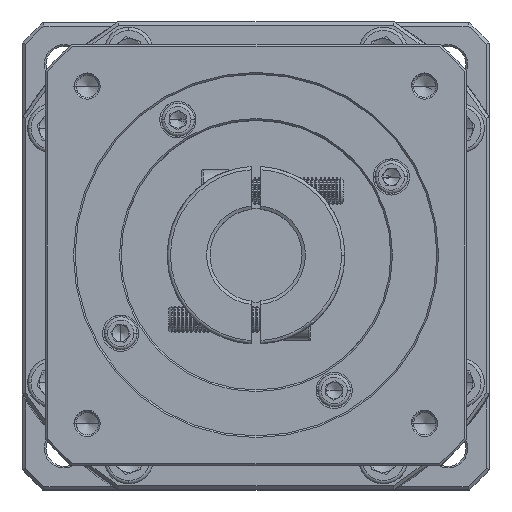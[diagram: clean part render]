
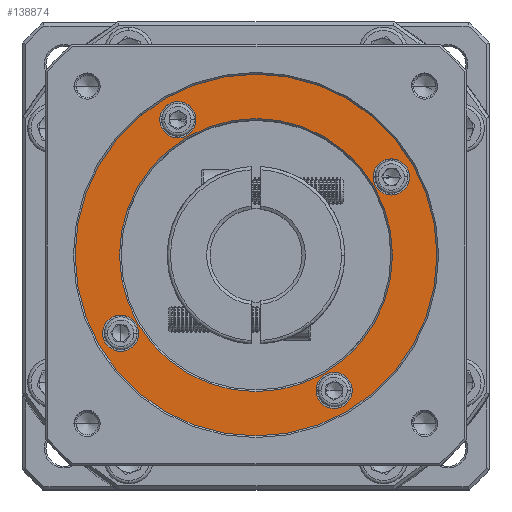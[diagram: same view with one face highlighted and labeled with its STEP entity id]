
A CAD part, top view. The second image highlights one B-rep face of the part: STEP entity #138874.
In plain terms, the highlighted planar face has unit normal (0, 0, 1).
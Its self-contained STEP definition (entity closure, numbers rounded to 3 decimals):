
#2716 = AXIS2_PLACEMENT_3D ( 'NONE', #20272, #119832, #130110 ) ;
#2863 = FACE_BOUND ( 'NONE', #81244, .T. ) ;
#3040 = ORIENTED_EDGE ( 'NONE', *, *, #79056, .T. ) ;
#4577 = CARTESIAN_POINT ( 'NONE',  ( -157.723, 72.385, -4.159 ) ) ;
#5025 = EDGE_CURVE ( 'NONE', #56036, #143612, #7758, .T. ) ;
#6142 = VERTEX_POINT ( 'NONE', #78401 ) ;
#7131 = DIRECTION ( 'NONE',  ( 1., 0., 0. ) ) ;
#7213 = EDGE_LOOP ( 'NONE', ( #120786, #34948 ) ) ;
#7758 = CIRCLE ( 'NONE', #142161, 5.5 ) ;
#8131 = DIRECTION ( 'NONE',  ( 1., 0., 0. ) ) ;
#9355 = AXIS2_PLACEMENT_3D ( 'NONE', #137518, #91048, #82189 ) ;
#11688 = FACE_BOUND ( 'NONE', #77683, .T. ) ;
#14036 = EDGE_CURVE ( 'NONE', #96364, #37630, #68209, .T. ) ;
#14424 = DIRECTION ( 'NONE',  ( 0., 0., -1. ) ) ;
#18352 = CIRCLE ( 'NONE', #44143, 55. ) ;
#18641 = VERTEX_POINT ( 'NONE', #57439 ) ;
#19185 = DIRECTION ( 'NONE',  ( 0., 0., -1. ) ) ;
#19555 = CIRCLE ( 'NONE', #80028, 5.5 ) ;
#19615 = PLANE ( 'NONE',  #118934 ) ;
#19818 = DIRECTION ( 'NONE',  ( 0., 0., -1. ) ) ;
#20272 = CARTESIAN_POINT ( 'NONE',  ( -111.087, 96.135, -4.159 ) ) ;
#22026 = CARTESIAN_POINT ( 'NONE',  ( -64.451, 119.885, -4.159 ) ) ;
#22436 = CARTESIAN_POINT ( 'NONE',  ( -87.337, 54.998, -4.159 ) ) ;
#23931 = FACE_BOUND ( 'NONE', #37126, .T. ) ;
#28263 = AXIS2_PLACEMENT_3D ( 'NONE', #127658, #14424, #105562 ) ;
#28775 = VERTEX_POINT ( 'NONE', #22026 ) ;
#31018 = FACE_BOUND ( 'NONE', #33881, .T. ) ;
#31186 = AXIS2_PLACEMENT_3D ( 'NONE', #131586, #76200, #8131 ) ;
#33618 = EDGE_LOOP ( 'NONE', ( #64453, #55061 ) ) ;
#33881 = EDGE_LOOP ( 'NONE', ( #108255, #48589 ) ) ;
#34948 = ORIENTED_EDGE ( 'NONE', *, *, #99044, .T. ) ;
#37126 = EDGE_LOOP ( 'NONE', ( #128819, #102769 ) ) ;
#37630 = VERTEX_POINT ( 'NONE', #110448 ) ;
#37638 = CARTESIAN_POINT ( 'NONE',  ( -87.337, 54.998, -4.159 ) ) ;
#38025 = FACE_BOUND ( 'NONE', #33618, .T. ) ;
#44143 = AXIS2_PLACEMENT_3D ( 'NONE', #102668, #69868, #124804 ) ;
#48589 = ORIENTED_EDGE ( 'NONE', *, *, #14036, .T. ) ;
#52516 = DIRECTION ( 'NONE',  ( 1., 0., 0. ) ) ;
#54398 = CIRCLE ( 'NONE', #131585, 5.5 ) ;
#55061 = ORIENTED_EDGE ( 'NONE', *, *, #5025, .T. ) ;
#56019 = DIRECTION ( 'NONE',  ( 1., 0., 0. ) ) ;
#56036 = VERTEX_POINT ( 'NONE', #4577 ) ;
#57439 = CARTESIAN_POINT ( 'NONE',  ( -75.451, 119.885, -4.159 ) ) ;
#61163 = DIRECTION ( 'NONE',  ( 0., 0., -1. ) ) ;
#61859 = CIRCLE ( 'NONE', #85126, 5.5 ) ;
#62502 = CARTESIAN_POINT ( 'NONE',  ( -56.087, 96.135, -4.159 ) ) ;
#62909 = VERTEX_POINT ( 'NONE', #132411 ) ;
#63611 = CIRCLE ( 'NONE', #99352, 5.5 ) ;
#64439 = CARTESIAN_POINT ( 'NONE',  ( -152.587, 96.135, -4.159 ) ) ;
#64453 = ORIENTED_EDGE ( 'NONE', *, *, #133388, .T. ) ;
#66019 = FACE_OUTER_BOUND ( 'NONE', #7213, .T. ) ;
#68209 = CIRCLE ( 'NONE', #31186, 5.5 ) ;
#69868 = DIRECTION ( 'NONE',  ( 0., 0., 1. ) ) ;
#74760 = EDGE_CURVE ( 'NONE', #6142, #62909, #19555, .T. ) ;
#76200 = DIRECTION ( 'NONE',  ( 0., 0., -1. ) ) ;
#76386 = ORIENTED_EDGE ( 'NONE', *, *, #129740, .T. ) ;
#77683 = EDGE_LOOP ( 'NONE', ( #3040, #140927 ) ) ;
#78347 = DIRECTION ( 'NONE',  ( 0., 0., -1. ) ) ;
#78401 = CARTESIAN_POINT ( 'NONE',  ( -81.837, 54.998, -4.159 ) ) ;
#79056 = EDGE_CURVE ( 'NONE', #117152, #131613, #114595, .T. ) ;
#80028 = AXIS2_PLACEMENT_3D ( 'NONE', #22436, #78347, #122986 ) ;
#81244 = EDGE_LOOP ( 'NONE', ( #76386, #94139 ) ) ;
#81303 = AXIS2_PLACEMENT_3D ( 'NONE', #145300, #143819, #56019 ) ;
#82118 = CARTESIAN_POINT ( 'NONE',  ( -152.223, 72.385, -4.159 ) ) ;
#82189 = DIRECTION ( 'NONE',  ( 1., 0., 0. ) ) ;
#82257 = CARTESIAN_POINT ( 'NONE',  ( -140.337, 137.271, -4.159 ) ) ;
#85126 = AXIS2_PLACEMENT_3D ( 'NONE', #130126, #19818, #7131 ) ;
#85175 = EDGE_CURVE ( 'NONE', #131613, #117152, #110008, .T. ) ;
#90210 = CARTESIAN_POINT ( 'NONE',  ( -152.223, 72.385, -4.159 ) ) ;
#91048 = DIRECTION ( 'NONE',  ( 0., 0., -1. ) ) ;
#93819 = DIRECTION ( 'NONE',  ( 0., 0., -1. ) ) ;
#94139 = ORIENTED_EDGE ( 'NONE', *, *, #94675, .T. ) ;
#94675 = EDGE_CURVE ( 'NONE', #18641, #28775, #61859, .T. ) ;
#96364 = VERTEX_POINT ( 'NONE', #82257 ) ;
#98219 = VERTEX_POINT ( 'NONE', #62502 ) ;
#99044 = EDGE_CURVE ( 'NONE', #123712, #98219, #131449, .T. ) ;
#99352 = AXIS2_PLACEMENT_3D ( 'NONE', #82118, #93819, #104577 ) ;
#102377 = DIRECTION ( 'NONE',  ( 1., 0., 0. ) ) ;
#102668 = CARTESIAN_POINT ( 'NONE',  ( -111.087, 96.135, -4.159 ) ) ;
#102769 = ORIENTED_EDGE ( 'NONE', *, *, #127023, .T. ) ;
#104577 = DIRECTION ( 'NONE',  ( 1., 0., 0. ) ) ;
#105562 = DIRECTION ( 'NONE',  ( 1., 0., 0. ) ) ;
#107890 = DIRECTION ( 'NONE',  ( 0., 0., 1. ) ) ;
#108255 = ORIENTED_EDGE ( 'NONE', *, *, #141735, .T. ) ;
#108386 = CARTESIAN_POINT ( 'NONE',  ( -111.087, 96.135, -4.159 ) ) ;
#108907 = DIRECTION ( 'NONE',  ( 1., 0., 0. ) ) ;
#110008 = CIRCLE ( 'NONE', #2716, 41.5 ) ;
#110448 = CARTESIAN_POINT ( 'NONE',  ( -129.337, 137.271, -4.159 ) ) ;
#112713 = CARTESIAN_POINT ( 'NONE',  ( -146.723, 72.385, -4.159 ) ) ;
#113706 = DIRECTION ( 'NONE',  ( 0., 0., -1. ) ) ;
#114595 = CIRCLE ( 'NONE', #145553, 41.5 ) ;
#115152 = CARTESIAN_POINT ( 'NONE',  ( -69.587, 96.135, -4.159 ) ) ;
#117044 = DIRECTION ( 'NONE',  ( 1., 0., 0. ) ) ;
#117152 = VERTEX_POINT ( 'NONE', #115152 ) ;
#118934 = AXIS2_PLACEMENT_3D ( 'NONE', #108386, #107890, #52516 ) ;
#119269 = CARTESIAN_POINT ( 'NONE',  ( -166.087, 96.135, -4.159 ) ) ;
#119832 = DIRECTION ( 'NONE',  ( 0., 0., -1. ) ) ;
#119835 = CIRCLE ( 'NONE', #9355, 5.5 ) ;
#120161 = CARTESIAN_POINT ( 'NONE',  ( -111.087, 96.135, -4.159 ) ) ;
#120786 = ORIENTED_EDGE ( 'NONE', *, *, #141688, .T. ) ;
#122986 = DIRECTION ( 'NONE',  ( 1., 0., 0. ) ) ;
#123712 = VERTEX_POINT ( 'NONE', #119269 ) ;
#124804 = DIRECTION ( 'NONE',  ( 1., 0., 0. ) ) ;
#125428 = CIRCLE ( 'NONE', #28263, 5.5 ) ;
#127023 = EDGE_CURVE ( 'NONE', #62909, #6142, #54398, .T. ) ;
#127658 = CARTESIAN_POINT ( 'NONE',  ( -134.837, 137.271, -4.159 ) ) ;
#128819 = ORIENTED_EDGE ( 'NONE', *, *, #74760, .T. ) ;
#129740 = EDGE_CURVE ( 'NONE', #28775, #18641, #119835, .T. ) ;
#130110 = DIRECTION ( 'NONE',  ( 1., 0., 0. ) ) ;
#130126 = CARTESIAN_POINT ( 'NONE',  ( -69.951, 119.885, -4.159 ) ) ;
#131449 = CIRCLE ( 'NONE', #81303, 55. ) ;
#131585 = AXIS2_PLACEMENT_3D ( 'NONE', #37638, #61163, #117044 ) ;
#131586 = CARTESIAN_POINT ( 'NONE',  ( -134.837, 137.271, -4.159 ) ) ;
#131613 = VERTEX_POINT ( 'NONE', #64439 ) ;
#132411 = CARTESIAN_POINT ( 'NONE',  ( -92.837, 54.998, -4.159 ) ) ;
#133388 = EDGE_CURVE ( 'NONE', #143612, #56036, #63611, .T. ) ;
#137518 = CARTESIAN_POINT ( 'NONE',  ( -69.951, 119.885, -4.159 ) ) ;
#138874 = ADVANCED_FACE ( 'NONE', ( #66019, #11688, #2863, #23931, #31018, #38025 ), #19615, .T. ) ;
#140927 = ORIENTED_EDGE ( 'NONE', *, *, #85175, .T. ) ;
#141688 = EDGE_CURVE ( 'NONE', #98219, #123712, #18352, .T. ) ;
#141735 = EDGE_CURVE ( 'NONE', #37630, #96364, #125428, .T. ) ;
#142161 = AXIS2_PLACEMENT_3D ( 'NONE', #90210, #113706, #102377 ) ;
#143612 = VERTEX_POINT ( 'NONE', #112713 ) ;
#143819 = DIRECTION ( 'NONE',  ( 0., 0., 1. ) ) ;
#145300 = CARTESIAN_POINT ( 'NONE',  ( -111.087, 96.135, -4.159 ) ) ;
#145553 = AXIS2_PLACEMENT_3D ( 'NONE', #120161, #19185, #108907 ) ;
